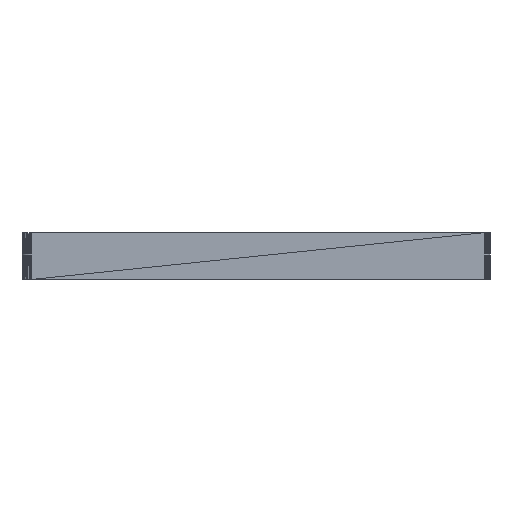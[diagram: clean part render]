
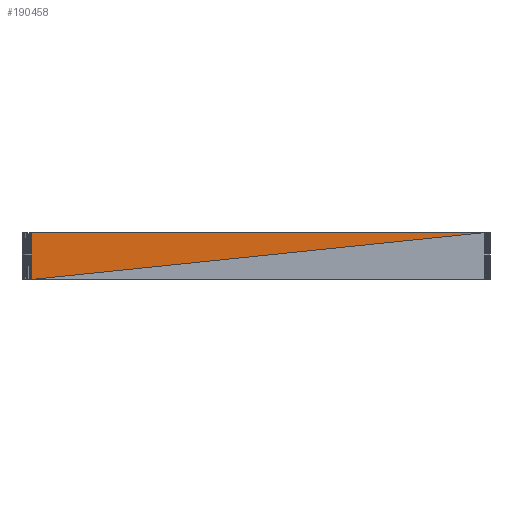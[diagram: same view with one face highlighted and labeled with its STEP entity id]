
A CAD part, front view. The second image highlights one B-rep face of the part: STEP entity #190458.
In plain terms, the highlighted planar face has unit normal (0, -1, 0).
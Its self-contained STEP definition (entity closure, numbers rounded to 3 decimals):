
#1788 = VERTEX_POINT('',#1789);
#1789 = CARTESIAN_POINT('',(0.081,0.,0.008));
#156254 = VERTEX_POINT('',#156255);
#156255 = CARTESIAN_POINT('',(0.002,0.,0.008));
#156261 = EDGE_CURVE('',#156254,#1788,#156262,.T.);
#156262 = LINE('',#156263,#156264);
#156263 = CARTESIAN_POINT('',(0.002,0.,0.008));
#156264 = VECTOR('',#156265,1.);
#156265 = DIRECTION('',(1.,0.,0.));
#190458 = ADVANCED_FACE('',(#190459),#190476,.T.);
#190459 = FACE_OUTER_BOUND('',#190460,.T.);
#190460 = EDGE_LOOP('',(#190461,#190469,#190470));
#190461 = ORIENTED_EDGE('',*,*,#190462,.T.);
#190462 = EDGE_CURVE('',#190463,#1788,#190465,.T.);
#190463 = VERTEX_POINT('',#190464);
#190464 = CARTESIAN_POINT('',(0.002,0.,0.));
#190465 = LINE('',#190466,#190467);
#190466 = CARTESIAN_POINT('',(0.002,0.,0.));
#190467 = VECTOR('',#190468,1.);
#190468 = DIRECTION('',(0.995,0.,0.103));
#190469 = ORIENTED_EDGE('',*,*,#156261,.F.);
#190470 = ORIENTED_EDGE('',*,*,#190471,.T.);
#190471 = EDGE_CURVE('',#156254,#190463,#190472,.T.);
#190472 = LINE('',#190473,#190474);
#190473 = CARTESIAN_POINT('',(0.002,0.,0.008));
#190474 = VECTOR('',#190475,1.);
#190475 = DIRECTION('',(0.,0.,-1.));
#190476 = PLANE('',#190477);
#190477 = AXIS2_PLACEMENT_3D('',#190478,#190479,#190480);
#190478 = CARTESIAN_POINT('',(0.039,0.,0.006)
  );
#190479 = DIRECTION('',(-0.,-1.,-0.));
#190480 = DIRECTION('',(0.,0.,-1.));
